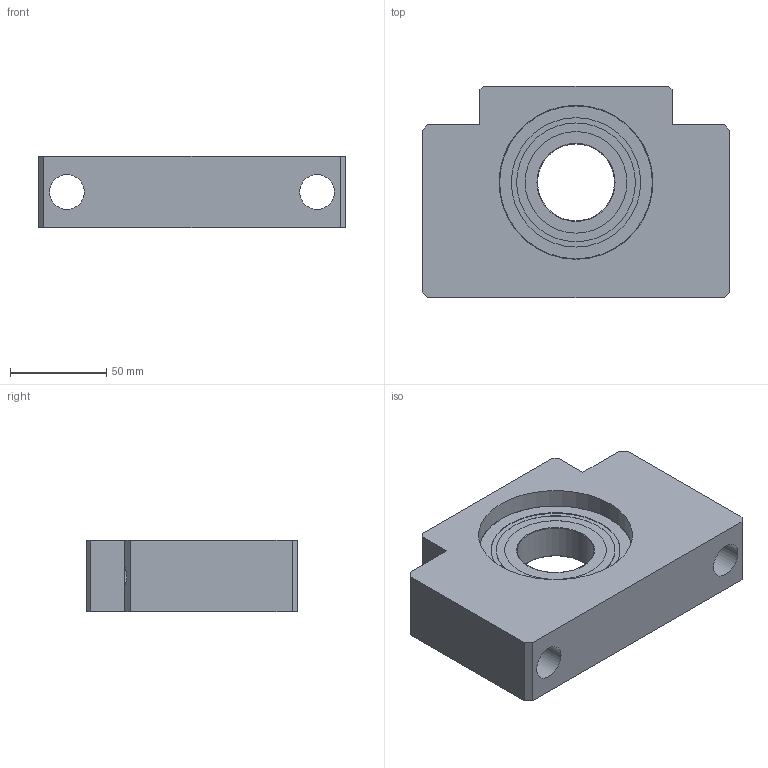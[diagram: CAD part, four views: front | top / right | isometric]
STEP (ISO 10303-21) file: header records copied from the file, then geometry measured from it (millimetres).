
FILE_DESCRIPTION(/* description */ ('STEP AP214'),/* implementation_level */ '2;1');
FILE_NAME(/* name */ 'BF40',/* time_stamp */ '2026-09-17T13:16:04+02:00',/* author */ ('License CC BY-ND 4.0'),/* organization */ ('CADENAS'),/* preprocessor_version */ 'ST-DEVELOPER v20',/* originating_system */ 'PARTsolutions',/* authorisation */ ' ');
FILE_SCHEMA (('AUTOMOTIVE_DESIGN {1 0 10303 214 3 1 1}'));
Length unit declared in the file: millimetre
Products named in the file (3): BF40; BF 40 Part1; BF 40 Part2
Assembly tree (2 placements, depth 2):
  BF40
    BF 40 Part1
    BF 40 Part2
Bounding box: 160 x 110 x 37 mm (x, y, z)
Volume: 431917.2 mm3; surface area: 76191.8 mm2
Topology: 2 solids, 2 shells, 43 faces, 96 edges, 63 vertices
Faces by surface type: plane 26, cylinder 13, torus 4
Full cylindrical faces by diameter (mm): 18 x2, 26 x2, 40 x1, 52.8 x2, 61.7 x2, 67.2 x2, 80 x2
Entity records: 1177 total; most frequent: DIRECTION 200, CARTESIAN_POINT 182, ORIENTED_EDGE 152, AXIS2_PLACEMENT_3D 78, EDGE_CURVE 76, EDGE_LOOP 74, FACE_BOUND 74, VERTEX_POINT 60
